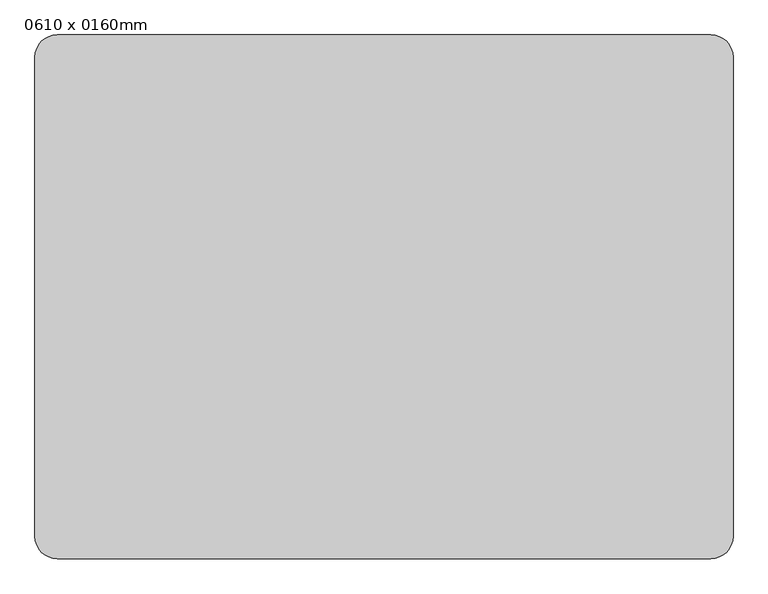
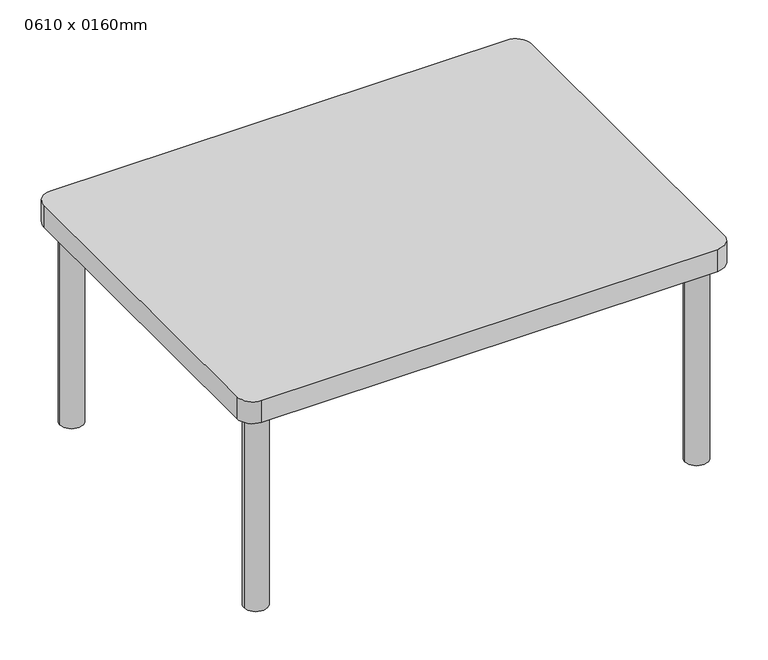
"""IFC4 building model written with IfcOpenShell, lengths in millimetres: furniture geometry, 边桌3 : 0610 x 0160mm."""

from ifc_helpers import new_model, si_unit, point, frame, frame_2d, origin, origin_with_axes, place, context, project, spatial, polyline, circle_curve, trimmed, segment, composite_curve, outline, extrude, source, transform, mapped, element, save


def furniture_0610_x_0160mm_c5022f2b(model_context):
    return source(origin(), model_context, "Body", "SweptSolid", [
        extrude(outline(composite_curve([segment(polyline([(1552.9336303, -447.6), (54.5336303, -447.6)]), True, "CONTINUOUS"), segment(trimmed(circle_curve(frame_2d((54.5336303, -396.8)), 50.8), [point((54.5336303, -447.6))], [point((3.7336303, -396.8))], False, "CARTESIAN"), True, "CONTINUOUS"), segment(polyline([(3.7336303, -396.8), (3.7336303, 701.6)]), True, "CONTINUOUS"), segment(trimmed(circle_curve(frame_2d((54.5336303, 701.6)), 50.8), [point((3.7336303, 701.6))], [point((54.5336303, 752.4))], False, "CARTESIAN"), True, "CONTINUOUS"), segment(polyline([(54.5336303, 752.4), (1552.9336303, 752.4)]), True, "CONTINUOUS"), segment(trimmed(circle_curve(frame_2d((1552.9336303, 701.6)), 50.8), [point((1552.9336303, 752.4))], [point((1603.7336303, 701.6))], False, "CARTESIAN"), True, "CONTINUOUS"), segment(polyline([(1603.7336303, 701.6), (1603.7336303, -396.8)]), True, "CONTINUOUS"), segment(trimmed(circle_curve(frame_2d((1552.9336303, -396.8)), 50.8), [point((1603.7336303, -396.8))], [point((1552.9336303, -447.6))], False, "CARTESIAN"), True, "CONTINUOUS")], self_intersect=False)), frame((0.0, 0.0, 685.8), z_axis=(0.0, 0.0, 1.0), x_axis=(1.0, 0.0, 0.0)), (0.0, 0.0, 1.0), 76.2),
        extrude(outline(composite_curve([segment(trimmed(circle_curve(frame_2d((79.9336303, 676.2)), 38.1), [point((41.8336303, 676.2))], [point((118.0336303, 676.2))], False, "CARTESIAN"), True, "CONTINUOUS"), segment(trimmed(circle_curve(frame_2d((79.9336303, 676.2)), 38.1), [point((118.0336303, 676.2))], [point((41.8336303, 676.2))], False, "CARTESIAN"), True, "CONTINUOUS")], self_intersect=False)), origin_with_axes(), (0.0, 0.0, 1.0), 685.8),
        extrude(outline(composite_curve([segment(trimmed(circle_curve(frame_2d((79.9336303, -371.4)), 38.1), [point((41.8336303, -371.4))], [point((118.0336303, -371.4))], False, "CARTESIAN"), True, "CONTINUOUS"), segment(trimmed(circle_curve(frame_2d((79.9336303, -371.4)), 38.1), [point((118.0336303, -371.4))], [point((41.8336303, -371.4))], False, "CARTESIAN"), True, "CONTINUOUS")], self_intersect=False)), origin_with_axes(), (0.0, 0.0, 1.0), 685.8),
        extrude(outline(composite_curve([segment(trimmed(circle_curve(frame_2d((1527.5336303, -371.4)), 38.1), [point((1489.4336303, -371.4))], [point((1565.6336303, -371.4))], False, "CARTESIAN"), True, "CONTINUOUS"), segment(trimmed(circle_curve(frame_2d((1527.5336303, -371.4)), 38.1), [point((1565.6336303, -371.4))], [point((1489.4336303, -371.4))], False, "CARTESIAN"), True, "CONTINUOUS")], self_intersect=False)), origin_with_axes(), (0.0, 0.0, 1.0), 685.8),
        extrude(outline(composite_curve([segment(trimmed(circle_curve(frame_2d((1527.5336303, 676.2)), 38.1), [point((1489.4336303, 676.2))], [point((1565.6336303, 676.2))], False, "CARTESIAN"), True, "CONTINUOUS"), segment(trimmed(circle_curve(frame_2d((1527.5336303, 676.2)), 38.1), [point((1565.6336303, 676.2))], [point((1489.4336303, 676.2))], False, "CARTESIAN"), True, "CONTINUOUS")], self_intersect=False)), origin_with_axes(), (0.0, 0.0, 1.0), 685.8),
    ])


if __name__ == "__main__":
    model = new_model("IFC4")
    model_context = context("Model", 3, world=origin())
    ifc_project = project(units=[si_unit("LENGTHUNIT", "METRE", prefix="MILLI")], contexts=[model_context])
    site = spatial("IfcSite", under=ifc_project)
    building = spatial("IfcBuilding", under=site)
    placement = place(None, origin())
    furniture_0610_x_0160mm_shape = furniture_0610_x_0160mm_c5022f2b(model_context)
    element("IfcFurniture", 1, ObjectType="边桌3 : 0610 x 0160mm", at=placement, inside=building, context=model_context, shape_type="MappedRepresentation", body=[
        mapped(furniture_0610_x_0160mm_shape, transform((0.0, 0.0, 0.0), x_axis=(1.0, 0.0, 0.0), y_axis=(0.0, 1.0, 0.0), z_axis=(0.0, 0.0, 1.0))),
    ])
    save(model, "model.ifc")
